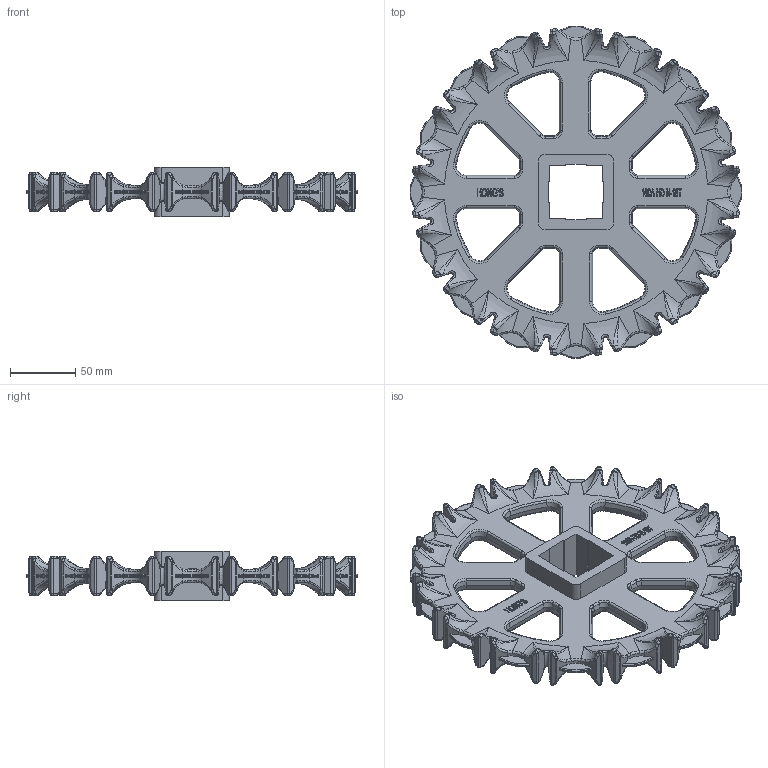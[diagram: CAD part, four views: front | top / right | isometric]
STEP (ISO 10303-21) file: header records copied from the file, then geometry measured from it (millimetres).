
FILE_DESCRIPTION(/* description */ (''),/* implementation_level */ '2;1');
FILE_NAME(/* name */ 'HS-100A-HD-N-16T.stp',/* time_stamp */ '2025-09-12T15:12:21+08:00',/* author */ (''),/* organization */ (''),/* preprocessor_version */ 'ST-DEVELOPER v15',/* originating_system */ 'SIEMENS PLM Software NX 8.5',/* authorisation */ '');
FILE_SCHEMA (('AP203_CONFIGURATION_CONTROLLED_3D_DESIGN_OF_MECHANICAL_PARTS_AND_ASSEMBLIES_MIM_LF { 1 0 10303 403 2 1 2}'));
Products named in the file (1): Admi2A20536372ef
Bounding box: 253.71 x 253.71 x 38.1 mm (x, y, z)
Volume: 436021.4 mm3; surface area: 117210 mm2
Topology: 1 solids, 1 shells, 2080 faces, 5093 edges, 2914 vertices
Faces by surface type: bspline 816, cylinder 536, plane 383, torus 128, sphere 128, extrusion 89
Entity records: 90742 total; most frequent: CARTESIAN_POINT 48586, ORIENTED_EDGE 9802, DIRECTION 7394, EDGE_CURVE 4901, AXIS2_PLACEMENT_3D 2952, VERTEX_POINT 2850, EDGE_LOOP 2125, ADVANCED_FACE 2080
